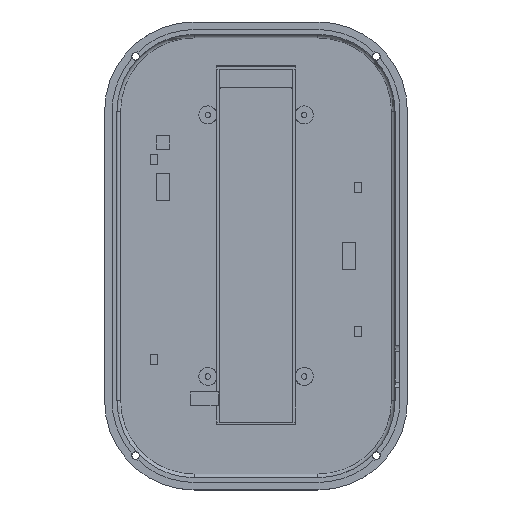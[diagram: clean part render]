
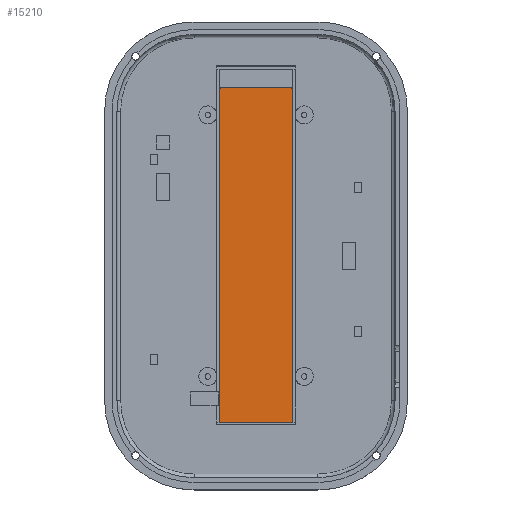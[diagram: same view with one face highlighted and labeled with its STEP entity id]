
A CAD part, top view. The second image highlights one B-rep face of the part: STEP entity #15210.
In plain terms, the highlighted planar face has unit normal (0, 0, 1).
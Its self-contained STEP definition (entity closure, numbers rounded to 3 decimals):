
#8299 = CYLINDRICAL_SURFACE('',#8300,2.);
#8300 = AXIS2_PLACEMENT_3D('',#8301,#8302,#8303);
#8301 = CARTESIAN_POINT('',(-9.5,47.,-11.2));
#8302 = DIRECTION('',(0.,0.,1.));
#8303 = DIRECTION('',(-1.,-0.,0.));
#8458 = CYLINDRICAL_SURFACE('',#8459,2.);
#8459 = AXIS2_PLACEMENT_3D('',#8460,#8461,#8462);
#8460 = CARTESIAN_POINT('',(9.5,47.,-11.2));
#8461 = DIRECTION('',(0.,0.,1.));
#8462 = DIRECTION('',(1.,0.,-0.));
#12143 = VERTEX_POINT('',#12144);
#12144 = CARTESIAN_POINT('',(-10.124,48.9,-10.4));
#12190 = VERTEX_POINT('',#12191);
#12191 = CARTESIAN_POINT('',(-10.75,48.561,-10.4));
#12204 = PLANE('',#12205);
#12205 = AXIS2_PLACEMENT_3D('',#12206,#12207,#12208);
#12206 = CARTESIAN_POINT('',(-10.75,-48.25,-10.45));
#12207 = DIRECTION('',(-1.,0.,0.));
#12208 = DIRECTION('',(0.,1.,0.));
#12215 = EDGE_CURVE('',#12190,#12143,#12216,.T.);
#12216 = SURFACE_CURVE('',#12217,(#12222,#12229),.PCURVE_S1.);
#12217 = CIRCLE('',#12218,2.);
#12218 = AXIS2_PLACEMENT_3D('',#12219,#12220,#12221);
#12219 = CARTESIAN_POINT('',(-9.5,47.,-10.4));
#12220 = DIRECTION('',(-0.,-0.,-1.));
#12221 = DIRECTION('',(0.,-1.,0.));
#12222 = PCURVE('',#8299,#12223);
#12223 = DEFINITIONAL_REPRESENTATION('',(#12224),#12228);
#12224 = LINE('',#12225,#12226);
#12225 = CARTESIAN_POINT('',(7.854,0.8));
#12226 = VECTOR('',#12227,1.);
#12227 = DIRECTION('',(-1.,0.));
#12228 = ( GEOMETRIC_REPRESENTATION_CONTEXT(2) 
PARAMETRIC_REPRESENTATION_CONTEXT() REPRESENTATION_CONTEXT('2D SPACE',''
  ) );
#12229 = PCURVE('',#12230,#12235);
#12230 = PLANE('',#12231);
#12231 = AXIS2_PLACEMENT_3D('',#12232,#12233,#12234);
#12232 = CARTESIAN_POINT('',(-11.5,-49.,-10.4));
#12233 = DIRECTION('',(0.,0.,1.));
#12234 = DIRECTION('',(1.,0.,-0.));
#12235 = DEFINITIONAL_REPRESENTATION('',(#12236),#12244);
#12236 = ( BOUNDED_CURVE() B_SPLINE_CURVE(2,(#12237,#12238,#12239,#12240
    ,#12241,#12242,#12243),.UNSPECIFIED.,.T.,.F.) 
B_SPLINE_CURVE_WITH_KNOTS((1,2,2,2,2,1),(-2.094,0.,
    2.094,4.189,6.283,8.378),
.UNSPECIFIED.) CURVE() GEOMETRIC_REPRESENTATION_ITEM() 
RATIONAL_B_SPLINE_CURVE((1.,0.5,1.,0.5,1.,0.5,1.)) REPRESENTATION_ITEM(
  '') );
#12237 = CARTESIAN_POINT('',(2.,94.));
#12238 = CARTESIAN_POINT('',(-1.464,94.));
#12239 = CARTESIAN_POINT('',(0.268,97.));
#12240 = CARTESIAN_POINT('',(2.,100.));
#12241 = CARTESIAN_POINT('',(3.732,97.));
#12242 = CARTESIAN_POINT('',(5.464,94.));
#12243 = CARTESIAN_POINT('',(2.,94.));
#12244 = ( GEOMETRIC_REPRESENTATION_CONTEXT(2) 
PARAMETRIC_REPRESENTATION_CONTEXT() REPRESENTATION_CONTEXT('2D SPACE',''
  ) );
#12252 = VERTEX_POINT('',#12253);
#12253 = CARTESIAN_POINT('',(10.124,48.9,-10.4));
#12272 = EDGE_CURVE('',#12273,#12252,#12275,.T.);
#12273 = VERTEX_POINT('',#12274);
#12274 = CARTESIAN_POINT('',(10.75,48.561,-10.4));
#12275 = SURFACE_CURVE('',#12276,(#12281,#12288),.PCURVE_S1.);
#12276 = CIRCLE('',#12277,2.);
#12277 = AXIS2_PLACEMENT_3D('',#12278,#12279,#12280);
#12278 = CARTESIAN_POINT('',(9.5,47.,-10.4));
#12279 = DIRECTION('',(0.,0.,1.));
#12280 = DIRECTION('',(0.,-1.,0.));
#12281 = PCURVE('',#8458,#12282);
#12282 = DEFINITIONAL_REPRESENTATION('',(#12283),#12287);
#12283 = LINE('',#12284,#12285);
#12284 = CARTESIAN_POINT('',(-1.571,0.8));
#12285 = VECTOR('',#12286,1.);
#12286 = DIRECTION('',(1.,0.));
#12287 = ( GEOMETRIC_REPRESENTATION_CONTEXT(2) 
PARAMETRIC_REPRESENTATION_CONTEXT() REPRESENTATION_CONTEXT('2D SPACE',''
  ) );
#12288 = PCURVE('',#12230,#12289);
#12289 = DEFINITIONAL_REPRESENTATION('',(#12290),#12294);
#12290 = CIRCLE('',#12291,2.);
#12291 = AXIS2_PLACEMENT_2D('',#12292,#12293);
#12292 = CARTESIAN_POINT('',(21.,96.));
#12293 = DIRECTION('',(0.,-1.));
#12294 = ( GEOMETRIC_REPRESENTATION_CONTEXT(2) 
PARAMETRIC_REPRESENTATION_CONTEXT() REPRESENTATION_CONTEXT('2D SPACE',''
  ) );
#12311 = PLANE('',#12312);
#12312 = AXIS2_PLACEMENT_3D('',#12313,#12314,#12315);
#12313 = CARTESIAN_POINT('',(10.75,54.25,-10.45));
#12314 = DIRECTION('',(1.,0.,-0.));
#12315 = DIRECTION('',(0.,-1.,0.));
#15210 = ADVANCED_FACE('',(#15211),#12230,.T.);
#15211 = FACE_BOUND('',#15212,.T.);
#15212 = EDGE_LOOP('',(#15213,#15214,#15235,#15261,#15280,#15281));
#15213 = ORIENTED_EDGE('',*,*,#12215,.F.);
#15214 = ORIENTED_EDGE('',*,*,#15215,.T.);
#15215 = EDGE_CURVE('',#12190,#15216,#15218,.T.);
#15216 = VERTEX_POINT('',#15217);
#15217 = CARTESIAN_POINT('',(-10.75,-48.25,-10.4));
#15218 = SURFACE_CURVE('',#15219,(#15223,#15229),.PCURVE_S1.);
#15219 = LINE('',#15220,#15221);
#15220 = CARTESIAN_POINT('',(-10.75,-48.625,-10.4));
#15221 = VECTOR('',#15222,1.);
#15222 = DIRECTION('',(0.,-1.,0.));
#15223 = PCURVE('',#12230,#15224);
#15224 = DEFINITIONAL_REPRESENTATION('',(#15225),#15228);
#15225 = B_SPLINE_CURVE_WITH_KNOTS('',1,(#15226,#15227),.UNSPECIFIED.,
  .F.,.F.,(2,2),(-97.525,-0.375),.PIECEWISE_BEZIER_KNOTS.);
#15226 = CARTESIAN_POINT('',(0.75,97.9));
#15227 = CARTESIAN_POINT('',(0.75,0.75));
#15228 = ( GEOMETRIC_REPRESENTATION_CONTEXT(2) 
PARAMETRIC_REPRESENTATION_CONTEXT() REPRESENTATION_CONTEXT('2D SPACE',''
  ) );
#15229 = PCURVE('',#12204,#15230);
#15230 = DEFINITIONAL_REPRESENTATION('',(#15231),#15234);
#15231 = B_SPLINE_CURVE_WITH_KNOTS('',1,(#15232,#15233),.UNSPECIFIED.,
  .F.,.F.,(2,2),(-97.525,-0.375),.PIECEWISE_BEZIER_KNOTS.);
#15232 = CARTESIAN_POINT('',(97.15,-0.05));
#15233 = CARTESIAN_POINT('',(0.,-0.05));
#15234 = ( GEOMETRIC_REPRESENTATION_CONTEXT(2) 
PARAMETRIC_REPRESENTATION_CONTEXT() REPRESENTATION_CONTEXT('2D SPACE',''
  ) );
#15235 = ORIENTED_EDGE('',*,*,#15236,.T.);
#15236 = EDGE_CURVE('',#15216,#15237,#15239,.T.);
#15237 = VERTEX_POINT('',#15238);
#15238 = CARTESIAN_POINT('',(10.75,-48.25,-10.4));
#15239 = SURFACE_CURVE('',#15240,(#15244,#15250),.PCURVE_S1.);
#15240 = LINE('',#15241,#15242);
#15241 = CARTESIAN_POINT('',(0.025,-48.25,-10.4));
#15242 = VECTOR('',#15243,1.);
#15243 = DIRECTION('',(1.,0.,-0.));
#15244 = PCURVE('',#12230,#15245);
#15245 = DEFINITIONAL_REPRESENTATION('',(#15246),#15249);
#15246 = B_SPLINE_CURVE_WITH_KNOTS('',1,(#15247,#15248),.UNSPECIFIED.,
  .F.,.F.,(2,2),(-11.086,11.036),
  .PIECEWISE_BEZIER_KNOTS.);
#15247 = CARTESIAN_POINT('',(0.439,0.75));
#15248 = CARTESIAN_POINT('',(22.561,0.75));
#15249 = ( GEOMETRIC_REPRESENTATION_CONTEXT(2) 
PARAMETRIC_REPRESENTATION_CONTEXT() REPRESENTATION_CONTEXT('2D SPACE',''
  ) );
#15250 = PCURVE('',#15251,#15256);
#15251 = PLANE('',#15252);
#15252 = AXIS2_PLACEMENT_3D('',#15253,#15254,#15255);
#15253 = CARTESIAN_POINT('',(11.55,-48.25,-10.45));
#15254 = DIRECTION('',(0.,-1.,0.));
#15255 = DIRECTION('',(-1.,0.,0.));
#15256 = DEFINITIONAL_REPRESENTATION('',(#15257),#15260);
#15257 = B_SPLINE_CURVE_WITH_KNOTS('',1,(#15258,#15259),.UNSPECIFIED.,
  .F.,.F.,(2,2),(-11.086,11.036),
  .PIECEWISE_BEZIER_KNOTS.);
#15258 = CARTESIAN_POINT('',(22.611,-0.05));
#15259 = CARTESIAN_POINT('',(0.489,-0.05));
#15260 = ( GEOMETRIC_REPRESENTATION_CONTEXT(2) 
PARAMETRIC_REPRESENTATION_CONTEXT() REPRESENTATION_CONTEXT('2D SPACE',''
  ) );
#15261 = ORIENTED_EDGE('',*,*,#15262,.T.);
#15262 = EDGE_CURVE('',#15237,#12273,#15263,.T.);
#15263 = SURFACE_CURVE('',#15264,(#15268,#15274),.PCURVE_S1.);
#15264 = LINE('',#15265,#15266);
#15265 = CARTESIAN_POINT('',(10.75,2.625,-10.4));
#15266 = VECTOR('',#15267,1.);
#15267 = DIRECTION('',(-0.,1.,0.));
#15268 = PCURVE('',#12230,#15269);
#15269 = DEFINITIONAL_REPRESENTATION('',(#15270),#15273);
#15270 = B_SPLINE_CURVE_WITH_KNOTS('',1,(#15271,#15272),.UNSPECIFIED.,
  .F.,.F.,(2,2),(-50.875,46.275),.PIECEWISE_BEZIER_KNOTS.);
#15271 = CARTESIAN_POINT('',(22.25,0.75));
#15272 = CARTESIAN_POINT('',(22.25,97.9));
#15273 = ( GEOMETRIC_REPRESENTATION_CONTEXT(2) 
PARAMETRIC_REPRESENTATION_CONTEXT() REPRESENTATION_CONTEXT('2D SPACE',''
  ) );
#15274 = PCURVE('',#12311,#15275);
#15275 = DEFINITIONAL_REPRESENTATION('',(#15276),#15279);
#15276 = B_SPLINE_CURVE_WITH_KNOTS('',1,(#15277,#15278),.UNSPECIFIED.,
  .F.,.F.,(2,2),(-50.875,46.275),.PIECEWISE_BEZIER_KNOTS.);
#15277 = CARTESIAN_POINT('',(102.5,-0.05));
#15278 = CARTESIAN_POINT('',(5.35,-0.05));
#15279 = ( GEOMETRIC_REPRESENTATION_CONTEXT(2) 
PARAMETRIC_REPRESENTATION_CONTEXT() REPRESENTATION_CONTEXT('2D SPACE',''
  ) );
#15280 = ORIENTED_EDGE('',*,*,#12272,.T.);
#15281 = ORIENTED_EDGE('',*,*,#15282,.F.);
#15282 = EDGE_CURVE('',#12143,#12252,#15283,.T.);
#15283 = SURFACE_CURVE('',#15284,(#15288,#15295),.PCURVE_S1.);
#15284 = LINE('',#15285,#15286);
#15285 = CARTESIAN_POINT('',(-11.5,48.9,-10.4));
#15286 = VECTOR('',#15287,1.);
#15287 = DIRECTION('',(1.,0.,0.));
#15288 = PCURVE('',#12230,#15289);
#15289 = DEFINITIONAL_REPRESENTATION('',(#15290),#15294);
#15290 = LINE('',#15291,#15292);
#15291 = CARTESIAN_POINT('',(0.,97.9));
#15292 = VECTOR('',#15293,1.);
#15293 = DIRECTION('',(1.,0.));
#15294 = ( GEOMETRIC_REPRESENTATION_CONTEXT(2) 
PARAMETRIC_REPRESENTATION_CONTEXT() REPRESENTATION_CONTEXT('2D SPACE',''
  ) );
#15295 = PCURVE('',#15296,#15301);
#15296 = PLANE('',#15297);
#15297 = AXIS2_PLACEMENT_3D('',#15298,#15299,#15300);
#15298 = CARTESIAN_POINT('',(-11.5,-49.,-10.4));
#15299 = DIRECTION('',(0.,0.,1.));
#15300 = DIRECTION('',(1.,0.,-0.));
#15301 = DEFINITIONAL_REPRESENTATION('',(#15302),#15306);
#15302 = LINE('',#15303,#15304);
#15303 = CARTESIAN_POINT('',(0.,97.9));
#15304 = VECTOR('',#15305,1.);
#15305 = DIRECTION('',(1.,0.));
#15306 = ( GEOMETRIC_REPRESENTATION_CONTEXT(2) 
PARAMETRIC_REPRESENTATION_CONTEXT() REPRESENTATION_CONTEXT('2D SPACE',''
  ) );
